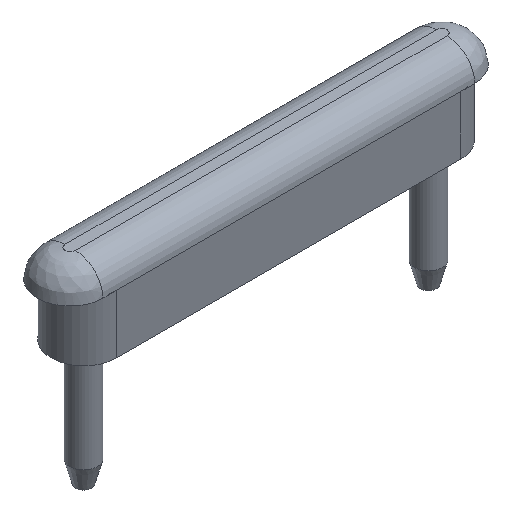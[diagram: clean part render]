
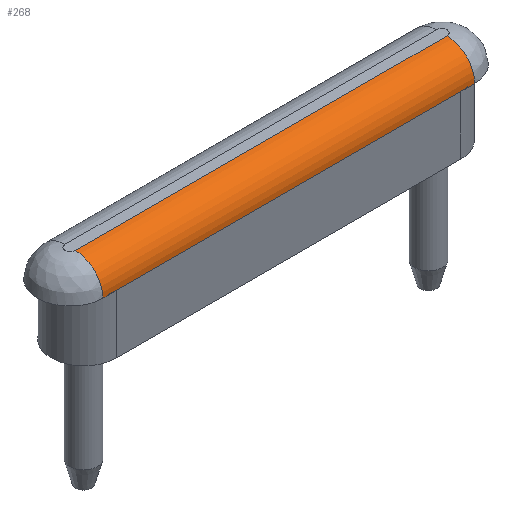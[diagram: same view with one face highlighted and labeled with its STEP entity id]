
A CAD part, isometric view. The second image highlights one B-rep face of the part: STEP entity #268.
In plain terms, the highlighted cylindrical face has radius 1.016 mm (diameter 2.032 mm), a partial arc.
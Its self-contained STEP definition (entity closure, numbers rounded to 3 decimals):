
#16=LINE($,#433,#30);
#17=LINE($,#437,#31);
#18=LINE($,#439,#32);
#19=LINE($,#440,#33);
#30=VECTOR($,#354,13.691);
#31=VECTOR($,#357,0.508);
#32=VECTOR($,#358,12.675);
#33=VECTOR($,#359,0.508);
#65=FACE_OUTER_BOUND($,#89,.T.);
#89=EDGE_LOOP($,(#188,#189,#190,#191,#192,#193));
#108=CIRCLE($,#298,1.016);
#109=CIRCLE($,#299,1.016);
#128=VERTEX_POINT($,#429);
#129=VERTEX_POINT($,#430);
#130=VERTEX_POINT($,#432);
#131=VERTEX_POINT($,#434);
#132=VERTEX_POINT($,#436);
#133=VERTEX_POINT($,#438);
#150=EDGE_CURVE($,#128,#129,#108,.T.);
#151=EDGE_CURVE($,#129,#130,#16,.T.);
#152=EDGE_CURVE($,#130,#131,#109,.T.);
#153=EDGE_CURVE($,#131,#132,#17,.T.);
#154=EDGE_CURVE($,#132,#133,#18,.T.);
#155=EDGE_CURVE($,#133,#128,#19,.T.);
#188=ORIENTED_EDGE($,*,*,#150,.T.);
#189=ORIENTED_EDGE($,*,*,#151,.T.);
#190=ORIENTED_EDGE($,*,*,#152,.T.);
#191=ORIENTED_EDGE($,*,*,#153,.T.);
#192=ORIENTED_EDGE($,*,*,#154,.T.);
#193=ORIENTED_EDGE($,*,*,#155,.T.);
#238=CYLINDRICAL_SURFACE($,#297,1.016);
#268=ADVANCED_FACE($,(#65),#238,.T.);
#297=AXIS2_PLACEMENT_3D($,#428,#350,#351);
#298=AXIS2_PLACEMENT_3D($,#431,#352,#353);
#299=AXIS2_PLACEMENT_3D($,#435,#355,#356);
#350=DIRECTION('center_axis',(-1.,0.,0.));
#351=DIRECTION('ref_axis',(0.,-0.707,0.707));
#352=DIRECTION('center_axis',(-1.,0.,0.));
#353=DIRECTION('ref_axis',(0.,-1.,0.));
#354=DIRECTION($,(-1.,0.,0.));
#355=DIRECTION('center_axis',(1.,0.,0.));
#356=DIRECTION('ref_axis',(0.,0.,1.));
#357=DIRECTION($,(1.,0.,0.));
#358=DIRECTION($,(1.,0.,0.));
#359=DIRECTION($,(1.,0.,0.));
#428=CARTESIAN_POINT('Origin',(3.169,-0.19,2.159));
#429=CARTESIAN_POINT('',(6.845,-1.207,2.159));
#430=CARTESIAN_POINT('',(6.845,-0.19,3.175));
#431=CARTESIAN_POINT('Origin',(6.845,-0.19,2.159));
#432=CARTESIAN_POINT('',(-6.845,-0.191,3.175));
#433=CARTESIAN_POINT($,(3.169,-0.19,3.175));
#434=CARTESIAN_POINT('',(-6.845,-1.207,2.159));
#435=CARTESIAN_POINT('Origin',(-6.845,-0.191,2.159));
#436=CARTESIAN_POINT('',(-6.337,-1.207,2.159));
#437=CARTESIAN_POINT($,(-6.845,-1.207,2.159));
#438=CARTESIAN_POINT('',(6.337,-1.207,2.159));
#439=CARTESIAN_POINT($,(3.169,-1.207,2.159));
#440=CARTESIAN_POINT($,(-6.845,-1.207,2.159));
